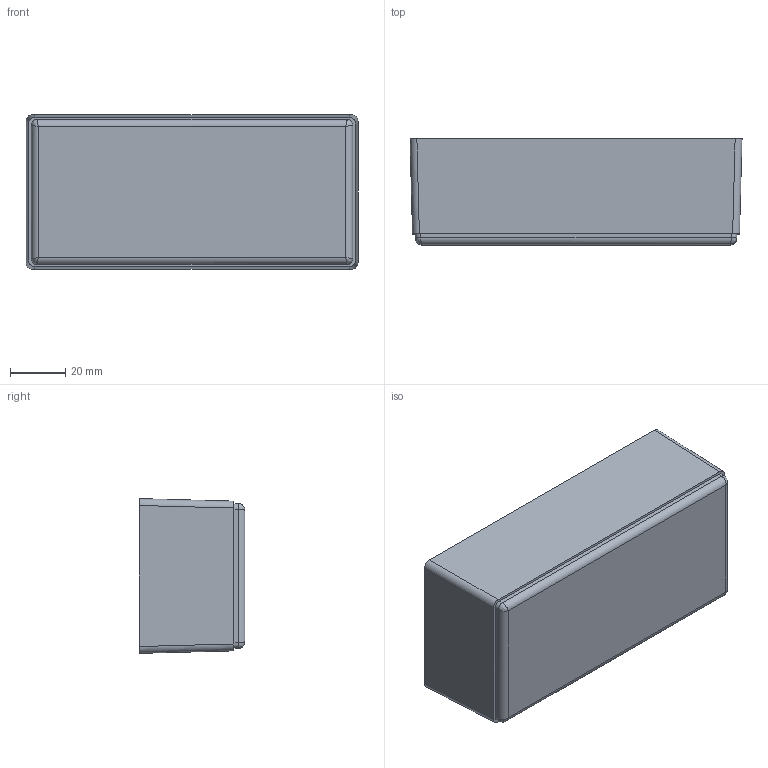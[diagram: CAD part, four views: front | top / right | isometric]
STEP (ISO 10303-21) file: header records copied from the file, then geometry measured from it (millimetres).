
FILE_DESCRIPTION (( 'STEP AP214' ), '1' );
FILE_NAME ('Cos PP9.STEP', '2017-07-05T10:05:07', ( 'aaa' ), ( '' ), 'SwSTEP 2.0', 'SolidWorks 2013', '' );
FILE_SCHEMA (( 'AUTOMOTIVE_DESIGN' ));
Length unit declared in the file: millimetre
Products named in the file (1): Cos PP9
Bounding box: 120.6 x 38.5 x 56.2 mm (x, y, z)
Volume: 40558.9 mm3; surface area: 38754.1 mm2
Topology: 1 solids, 1 shells, 63 faces, 148 edges, 92 vertices
Faces by surface type: cylinder 32, plane 27, bspline 4
Entity records: 1968 total; most frequent: CARTESIAN_POINT 560, ORIENTED_EDGE 288, DIRECTION 280, EDGE_CURVE 144, AXIS2_PLACEMENT_3D 100, VERTEX_POINT 92, LINE 80, VECTOR 80
